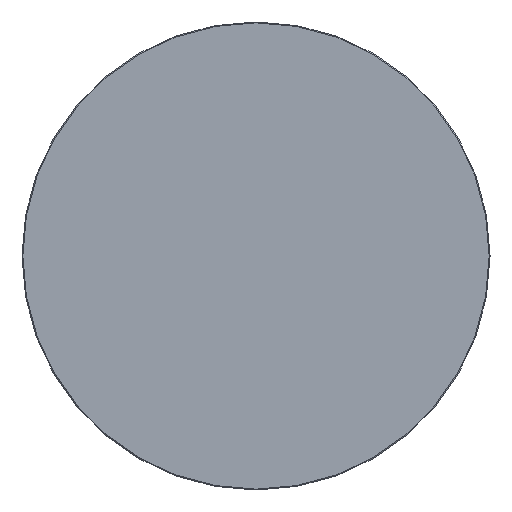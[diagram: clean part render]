
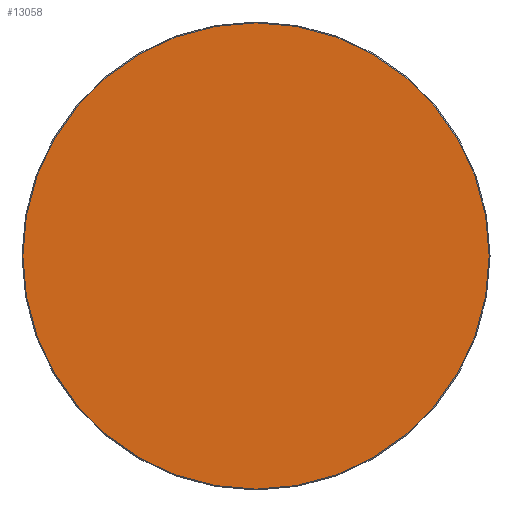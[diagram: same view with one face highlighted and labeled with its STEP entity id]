
A CAD part, top view. The second image highlights one B-rep face of the part: STEP entity #13058.
In plain terms, the highlighted planar face has unit normal (0, 0, 1).
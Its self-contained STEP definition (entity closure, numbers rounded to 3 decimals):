
#12983=CARTESIAN_POINT('',(0.,0.,20.));
#12984=DIRECTION('',(1.,0.,0.));
#12985=DIRECTION('',(0.,0.,1.));
#12986=AXIS2_PLACEMENT_3D('',#12983,#12985,#12984);
#12987=PLANE('',#12986);
#12988=CARTESIAN_POINT('',(-0.5,-398.5,20.));
#12989=VERTEX_POINT('',#12988);
#12990=CARTESIAN_POINT('',(0.5,-398.5,20.));
#12991=VERTEX_POINT('',#12990);
#12992=CARTESIAN_POINT('',(-0.5,-398.5,20.));
#12993=DIRECTION('',(1.,0.,0.));
#12994=VECTOR('',#12993,1.);
#12995=LINE('',#12992,#12994);
#12996=EDGE_CURVE('',#12989,#12991,#12995,.T.);
#12997=ORIENTED_EDGE('E105',*,*,#12996,.T.);
#12998=CARTESIAN_POINT('',(398.5,-0.5,20.));
#12999=VERTEX_POINT('',#12998);
#13000=CARTESIAN_POINT('',(0.5,-0.5,20.));
#13001=DIRECTION('',(0.,-1.,0.));
#13002=DIRECTION('',(0.,0.,1.));
#13003=AXIS2_PLACEMENT_3D('',#13000,#13002,#13001);
#13004=CIRCLE('',#13003,398.);
#13005=EDGE_CURVE('',#12991,#12999,#13004,.T.);
#13006=ORIENTED_EDGE('E107',*,*,#13005,.T.);
#13007=CARTESIAN_POINT('',(398.5,0.5,20.));
#13008=VERTEX_POINT('',#13007);
#13009=CARTESIAN_POINT('',(398.5,-0.5,20.));
#13010=DIRECTION('',(0.,1.,0.));
#13011=VECTOR('',#13010,1.);
#13012=LINE('',#13009,#13011);
#13013=EDGE_CURVE('',#12999,#13008,#13012,.T.);
#13014=ORIENTED_EDGE('E109',*,*,#13013,.T.);
#13015=CARTESIAN_POINT('',(0.5,398.5,20.));
#13016=VERTEX_POINT('',#13015);
#13017=CARTESIAN_POINT('',(0.5,0.5,20.));
#13018=DIRECTION('',(1.,0.,0.));
#13019=DIRECTION('',(0.,0.,1.));
#13020=AXIS2_PLACEMENT_3D('',#13017,#13019,#13018);
#13021=CIRCLE('',#13020,398.);
#13022=EDGE_CURVE('',#13008,#13016,#13021,.T.);
#13023=ORIENTED_EDGE('E111',*,*,#13022,.T.);
#13024=CARTESIAN_POINT('',(-0.5,398.5,20.));
#13025=VERTEX_POINT('',#13024);
#13026=CARTESIAN_POINT('',(0.5,398.5,20.));
#13027=DIRECTION('',(-1.,0.,0.));
#13028=VECTOR('',#13027,1.);
#13029=LINE('',#13026,#13028);
#13030=EDGE_CURVE('',#13016,#13025,#13029,.T.);
#13031=ORIENTED_EDGE('E113',*,*,#13030,.T.);
#13032=CARTESIAN_POINT('',(-398.5,0.5,20.));
#13033=VERTEX_POINT('',#13032);
#13034=CARTESIAN_POINT('',(-0.5,0.5,20.));
#13035=DIRECTION('',(0.,1.,0.));
#13036=DIRECTION('',(0.,0.,1.));
#13037=AXIS2_PLACEMENT_3D('',#13034,#13036,#13035);
#13038=CIRCLE('',#13037,398.);
#13039=EDGE_CURVE('',#13025,#13033,#13038,.T.);
#13040=ORIENTED_EDGE('E115',*,*,#13039,.T.);
#13041=CARTESIAN_POINT('',(-398.5,-0.5,20.));
#13042=VERTEX_POINT('',#13041);
#13043=CARTESIAN_POINT('',(-398.5,0.5,20.));
#13044=DIRECTION('',(0.,-1.,0.));
#13045=VECTOR('',#13044,1.);
#13046=LINE('',#13043,#13045);
#13047=EDGE_CURVE('',#13033,#13042,#13046,.T.);
#13048=ORIENTED_EDGE('E117',*,*,#13047,.T.);
#13049=CARTESIAN_POINT('',(-0.5,-0.5,20.));
#13050=DIRECTION('',(-1.,0.,0.));
#13051=DIRECTION('',(-0.,0.,1.));
#13052=AXIS2_PLACEMENT_3D('',#13049,#13051,#13050);
#13053=CIRCLE('',#13052,398.);
#13054=EDGE_CURVE('',#13042,#12989,#13053,.T.);
#13055=ORIENTED_EDGE('E119',*,*,#13054,.T.);
#13056=EDGE_LOOP('',(#12997,#13006,#13014,#13023,#13031,#13040,#13048,#13055));
#13057=FACE_OUTER_BOUND('',#13056,.T.);
#13058=ADVANCED_FACE('F2',(#13057),#12987,.T.);
